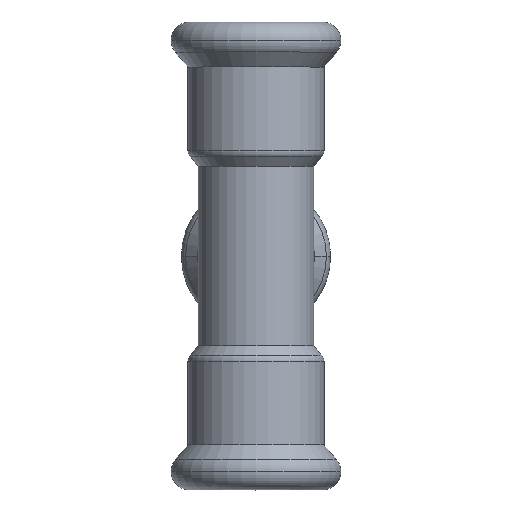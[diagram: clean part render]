
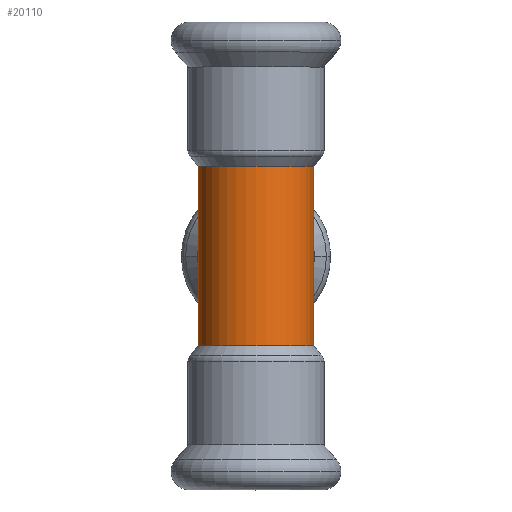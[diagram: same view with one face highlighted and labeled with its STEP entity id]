
A CAD part, top view. The second image highlights one B-rep face of the part: STEP entity #20110.
In plain terms, the highlighted cylindrical face has radius 9 mm (diameter 18 mm), a partial arc.
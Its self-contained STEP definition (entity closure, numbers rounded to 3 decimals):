
#160=CARTESIAN_POINT('',(-96.193,20.909,-14.));
#170=DIRECTION('',(0.,0.,-1.));
#180=DIRECTION('',(1.,0.,0.));
#190=AXIS2_PLACEMENT_3D('',#160,#170,#180);
#200=CYLINDRICAL_SURFACE('',#190,9.);
#19750=CARTESIAN_POINT('',(-87.193,20.909,-14.));
#19760=DIRECTION('',(0.,0.,-1.));
#19770=VECTOR('',#19760,1.);
#19780=LINE('',#19750,#19770);
#19790=CARTESIAN_POINT('',(-87.193,20.909,14.));
#19800=VERTEX_POINT('',#19790);
#19810=CARTESIAN_POINT('',(-87.193,20.909,-14.));
#19820=VERTEX_POINT('',#19810);
#19830=EDGE_CURVE('',#19800,#19820,#19780,.T.);
#19840=ORIENTED_EDGE('',*,*,#19830,.F.);
#19850=CARTESIAN_POINT('',(-96.193,20.909,-14.));
#19860=DIRECTION('',(0.,0.,-1.));
#19870=DIRECTION('',(-1.,0.,0.));
#19880=AXIS2_PLACEMENT_3D('',#19850,#19860,#19870);
#19890=CIRCLE('',#19880,9.);
#19900=CARTESIAN_POINT('',(-105.193,20.909,-14.));
#19910=VERTEX_POINT('',#19900);
#19920=EDGE_CURVE('',#19820,#19910,#19890,.T.);
#19930=ORIENTED_EDGE('',*,*,#19920,.F.);
#19940=CARTESIAN_POINT('',(-105.193,20.909,-14.));
#19950=DIRECTION('',(0.,0.,-1.));
#19960=VECTOR('',#19950,1.);
#19970=LINE('',#19940,#19960);
#19980=CARTESIAN_POINT('',(-105.193,20.909,14.));
#19990=VERTEX_POINT('',#19980);
#20000=EDGE_CURVE('',#19990,#19910,#19970,.T.);
#20010=ORIENTED_EDGE('',*,*,#20000,.T.);
#20020=CARTESIAN_POINT('',(-96.193,20.909,14.));
#20030=DIRECTION('',(0.,0.,-1.));
#20040=DIRECTION('',(1.,0.,0.));
#20050=AXIS2_PLACEMENT_3D('',#20020,#20030,#20040);
#20060=CIRCLE('',#20050,9.);
#20070=EDGE_CURVE('',#19800,#19990,#20060,.T.);
#20080=ORIENTED_EDGE('',*,*,#20070,.T.);
#20090=EDGE_LOOP('',(#20080,#20010,#19930,#19840));
#20100=FACE_OUTER_BOUND('',#20090,.T.);
#20110=ADVANCED_FACE('',(#20100),#200,.T.);
